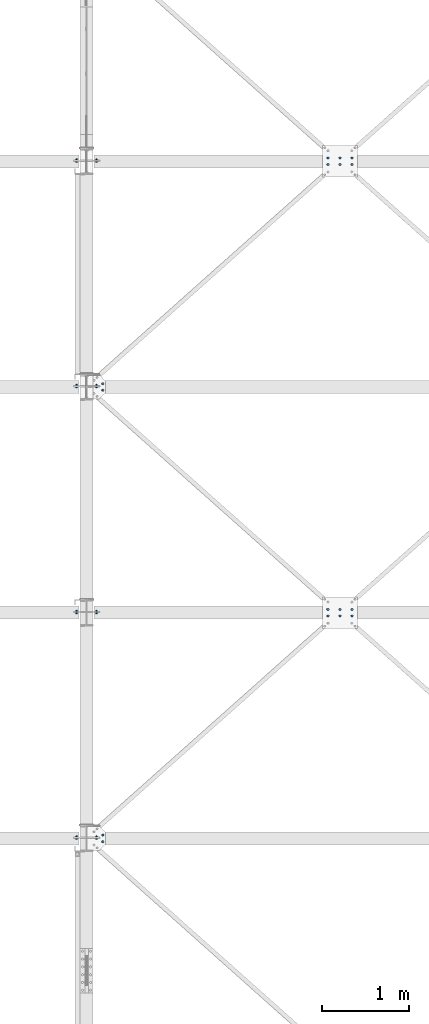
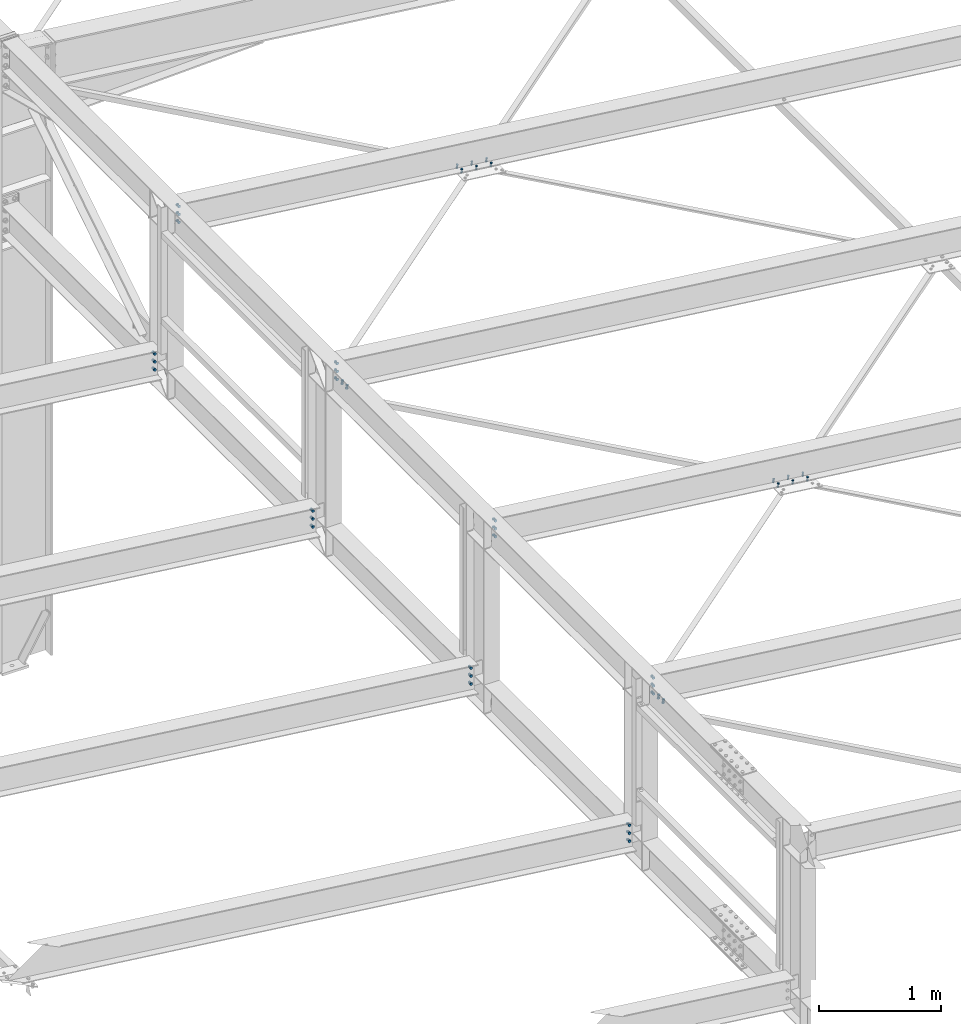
# One storey, part 245 of 3134: 12 mechanical fasteners, 8 elements without a shape of their own.
"""IFC2X3 building model written with IfcOpenShell, lengths in millimetres."""

from ifc_helpers import new_model, si_unit, frame, origin_with_axes, place, context, subcontext, project, spatial, faceted_brep, source, transform, mapped, material, type_object, element, aggregate, save


model = new_model("IFC2X3")

# Units and contexts
model_context = context("Model", 3, precision=1e-05, world=origin_with_axes())
body_context = subcontext(model_context, "Body", "Model", "MODEL_VIEW")
ifc_project = project(units=[si_unit("LENGTHUNIT", "METRE", prefix="MILLI"), si_unit("AREAUNIT", "SQUARE_METRE"), si_unit("VOLUMEUNIT", "CUBIC_METRE"), si_unit("MASSUNIT", "GRAM", prefix="KILO"), si_unit("TIMEUNIT", "SECOND"), si_unit("PLANEANGLEUNIT", "RADIAN"), si_unit("SOLIDANGLEUNIT", "STERADIAN"), si_unit("THERMODYNAMICTEMPERATUREUNIT", "DEGREE_CELSIUS"), si_unit("LUMINOUSINTENSITYUNIT", "LUMEN")], contexts=[model_context])

# Site, building, storey
site_placement = place(None, origin_with_axes())
site = spatial("IfcSite", under=ifc_project, at=site_placement, CompositionType="ELEMENT")
building_placement = place(site_placement, origin_with_axes())
building = spatial("IfcBuilding", under=site, at=building_placement, Name="Undefined", CompositionType="ELEMENT")
storey_placement = place(building_placement, origin_with_axes())
storey = spatial("IfcBuildingStorey", under=building, at=storey_placement, Name="Undefined", CompositionType="ELEMENT", Elevation=0.0)

# Assembly, mechanical fastener
assembly_1_placement = place(storey_placement, origin_with_axes())
assembly_1 = element("IfcElementAssembly", 1, at=assembly_1_placement, inside=storey, Name="300", AssemblyPlace="NOTDEFINED", PredefinedType="RIGID_FRAME")
ifc_material = material(Name="8.8")
mechanical_fastener_type = type_object("IfcMechanicalFastenerType", Name="Bolt assembly")
shared_shape_1 = source(origin_with_axes(), body_context, "Body", "Brep", [
    faceted_brep([(13.856406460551, -19.199990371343, 0.0), (6.92820323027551, -19.199990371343, 12.0), (-6.92820323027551, -19.199990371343, 12.0), (-13.856406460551, -19.199990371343, 1.69692038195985e-15), (-6.92820323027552, -19.199990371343, -12.0), (6.9282032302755, -19.199990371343, -12.0), (6.9282032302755, -9.19999037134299, -12.0), (-6.92820323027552, -9.19999037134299, -12.0), (-13.856406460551, -9.19999037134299, 1.69692038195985e-15), (-6.92820323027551, -9.19999037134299, 12.0), (6.92820323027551, -9.19999037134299, 12.0), (13.856406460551, -9.19999037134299, 0.0), (8.0, -9.19999037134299, 0.0), (6.92820323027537, -9.19999037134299, 4.00000000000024), (3.99999999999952, -9.19999037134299, 6.92820323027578), (-8.29068785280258e-13, -9.19999037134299, 8.0), (-4.00000000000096, -9.19999037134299, 6.92820323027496), (-6.9282032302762, -9.19999037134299, 3.99999999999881), (-8.0, -9.19999037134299, -1.65813757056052e-12), (-6.92820323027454, -9.19999037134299, -4.00000000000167), (-3.99999999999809, -9.19999037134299, -6.92820323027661), (2.47832457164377e-12, -9.19999037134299, -8.0), (4.00000000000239, -9.19999037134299, -6.92820323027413), (6.92820323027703, -9.19999037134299, -3.99999999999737), (6.92820323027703, 25.800009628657, -3.99999999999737), (4.00000000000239, 25.800009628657, -6.92820323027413), (2.47832457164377e-12, 25.800009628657, -8.0), (-3.99999999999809, 25.800009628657, -6.92820323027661), (-6.92820323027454, 25.800009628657, -4.00000000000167), (-8.0, 25.800009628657, -1.65813757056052e-12), (-6.9282032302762, 25.800009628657, 3.99999999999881), (-4.00000000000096, 25.800009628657, 6.92820323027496), (-8.29068785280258e-13, 25.800009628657, 8.0), (3.99999999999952, 25.800009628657, 6.92820323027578), (6.92820323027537, 25.800009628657, 4.00000000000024), (8.0, 25.800009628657, 0.0), (13.856406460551, 8.00000637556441, 0.0), (6.92820323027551, 8.00000637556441, 12.0), (-6.92820323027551, 8.00000637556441, 12.0), (-13.856406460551, 8.00000637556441, 1.69692038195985e-15), (-6.92820323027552, 8.00000637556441, -12.0), (6.9282032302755, 8.00000637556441, -12.0), (6.9282032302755, 21.0000063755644, -12.0), (-6.92820323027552, 21.0000063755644, -12.0), (-13.856406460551, 21.0000063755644, 1.69692038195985e-15), (-6.92820323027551, 21.0000063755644, 12.0), (6.92820323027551, 21.0000063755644, 12.0), (13.856406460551, 21.0000063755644, 0.0)], [[[0, 1, 2, 3, 4, 5]], [[6, 7, 8, 9, 10, 11]], [[0, 11, 10, 1]], [[1, 10, 9, 2]], [[2, 9, 8, 3]], [[3, 8, 7, 4]], [[4, 7, 6, 5]], [[5, 6, 11, 0]], [[12, 13, 14, 15, 16, 17, 18, 19, 20, 21, 22, 23]], [[24, 25, 26, 27, 28, 29, 30, 31, 32, 33, 34, 35]], [[12, 35, 34, 13]], [[13, 34, 33, 14]], [[14, 33, 32, 15]], [[15, 32, 31, 16]], [[16, 31, 30, 17]], [[17, 30, 29, 18]], [[18, 29, 28, 19]], [[19, 28, 27, 20]], [[20, 27, 26, 21]], [[21, 26, 25, 22]], [[22, 25, 24, 23]], [[23, 24, 35, 12]], [[36, 37, 38, 39, 40, 41]], [[42, 43, 44, 45, 46, 47]], [[36, 47, 46, 37]], [[37, 46, 45, 38]], [[38, 45, 44, 39]], [[39, 44, 43, 40]], [[40, 43, 42, 41]], [[41, 42, 47, 36]]]),
    faceted_brep([(9.0, -0.1, 0.0), (7.79422863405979, -0.1, 4.50000000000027), (4.49999999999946, -0.1, 7.79422863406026), (-9.3270238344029e-13, -0.1, 9.0), (-4.50000000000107, -0.1, 7.79422863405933), (-7.79422863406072, -0.1, 4.49999999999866), (-9.0, -0.1, -1.86540476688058e-12), (-7.79422863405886, -0.1, -4.50000000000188), (-4.49999999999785, -0.1, -7.79422863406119), (2.78811514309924e-12, -0.1, -9.0), (4.50000000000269, -0.1, -7.7942286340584), (7.79422863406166, -0.1, -4.49999999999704), (7.79422863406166, 8.00000000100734, -4.49999999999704), (4.50000000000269, 8.00000000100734, -7.7942286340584), (2.78811514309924e-12, 8.00000000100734, -9.0), (-4.49999999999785, 8.00000000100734, -7.79422863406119), (-7.79422863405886, 8.00000000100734, -4.50000000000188), (-9.0, 8.00000000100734, -1.86540476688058e-12), (-7.79422863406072, 8.00000000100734, 4.49999999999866), (-4.50000000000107, 8.00000000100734, 7.79422863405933), (-9.3270238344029e-13, 8.00000000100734, 9.0), (4.49999999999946, 8.00000000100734, 7.79422863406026), (7.79422863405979, 8.00000000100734, 4.50000000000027), (9.0, 8.00000000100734, 0.0), (9.0, -9.09999037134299, 0.0), (7.79422863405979, -9.09999037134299, 4.50000000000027), (4.49999999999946, -9.09999037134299, 7.79422863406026), (-9.3270238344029e-13, -9.09999037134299, 9.0), (-4.50000000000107, -9.09999037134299, 7.79422863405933), (-7.79422863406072, -9.09999037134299, 4.49999999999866), (-9.0, -9.09999037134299, -1.86540476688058e-12), (-7.79422863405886, -9.09999037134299, -4.50000000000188), (-4.49999999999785, -9.09999037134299, -7.79422863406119), (2.78811514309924e-12, -9.09999037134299, -9.0), (4.50000000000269, -9.09999037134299, -7.7942286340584), (7.79422863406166, -9.09999037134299, -4.49999999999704), (7.79422863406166, 0.100000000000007, -4.49999999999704), (4.50000000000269, 0.100000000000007, -7.7942286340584), (2.78811514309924e-12, 0.100000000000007, -9.0), (-4.49999999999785, 0.100000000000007, -7.79422863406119), (-7.79422863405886, 0.100000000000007, -4.50000000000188), (-9.0, 0.100000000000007, -1.86540476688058e-12), (-7.79422863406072, 0.100000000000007, 4.49999999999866), (-4.50000000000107, 0.100000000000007, 7.79422863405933), (-9.3270238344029e-13, 0.100000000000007, 9.0), (4.49999999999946, 0.100000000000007, 7.79422863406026), (7.79422863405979, 0.100000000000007, 4.50000000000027), (9.0, 0.100000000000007, 0.0)], [[[0, 1, 2, 3, 4, 5, 6, 7, 8, 9, 10, 11]], [[12, 13, 14, 15, 16, 17, 18, 19, 20, 21, 22, 23]], [[0, 23, 22, 1]], [[1, 22, 21, 2]], [[2, 21, 20, 3]], [[3, 20, 19, 4]], [[4, 19, 18, 5]], [[5, 18, 17, 6]], [[6, 17, 16, 7]], [[7, 16, 15, 8]], [[8, 15, 14, 9]], [[9, 14, 13, 10]], [[10, 13, 12, 11]], [[11, 12, 23, 0]], [[24, 25, 26, 27, 28, 29, 30, 31, 32, 33, 34, 35]], [[36, 37, 38, 39, 40, 41, 42, 43, 44, 45, 46, 47]], [[24, 47, 46, 25]], [[25, 46, 45, 26]], [[26, 45, 44, 27]], [[27, 44, 43, 28]], [[28, 43, 42, 29]], [[29, 42, 41, 30]], [[30, 41, 40, 31]], [[31, 40, 39, 32]], [[32, 39, 38, 33]], [[33, 38, 37, 34]], [[34, 37, 36, 35]], [[35, 36, 47, 24]]]),
])
mechanical_fastener_1_placement = place(assembly_1_placement, frame((32714.2248161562, 35087.9995130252, 5496.68063428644), z_axis=(0.992623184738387, 1.63108538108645e-05, -0.12124031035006), x_axis=(1.62000016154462e-05, -0.999999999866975, -1.90000018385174e-06)))
mechanical_fastener_1 = element("IfcMechanicalFastener", 2, at=mechanical_fastener_1_placement, type_object=mechanical_fastener_type, material=ifc_material, Name="Bolt assembly", NominalDiameter=16.0, NominalLength=35.0, context=body_context, shape_type="MappedRepresentation", body=[
    mapped(shared_shape_1, transform((0.0, 0.0, 0.0))),
    mapped(shared_shape_1, transform((76.0, 0.0, 0.0))),
])

# Assembly, mechanical fasteners
assembly_2_placement = place(storey_placement, origin_with_axes())
assembly_2 = element("IfcElementAssembly", 3, at=assembly_2_placement, inside=storey, Name="300", AssemblyPlace="NOTDEFINED", PredefinedType="RIGID_FRAME")
mechanical_fastener_2_placement = place(assembly_2_placement, frame((32714.2248161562, 29887.9995130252, 5496.68063428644), z_axis=(0.992623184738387, 1.63108538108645e-05, -0.12124031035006), x_axis=(1.62000016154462e-05, -0.999999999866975, -1.90000018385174e-06)))
mechanical_fastener_2 = element("IfcMechanicalFastener", 4, at=mechanical_fastener_2_placement, type_object=mechanical_fastener_type, material=ifc_material, Name="Bolt assembly", NominalDiameter=16.0, NominalLength=35.0, context=body_context, shape_type="MappedRepresentation", body=[
    mapped(shared_shape_1, transform((0.0, 0.0, 0.0))),
    mapped(shared_shape_1, transform((76.0, 0.0, 0.0))),
])
shared_shape_2 = source(origin_with_axes(), body_context, "Body", "Brep", [
    faceted_brep([(13.856406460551, -13.0499999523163, 0.0), (6.92820323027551, -13.0499999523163, 12.0), (-6.92820323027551, -13.0499999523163, 12.0), (-13.856406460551, -13.0499999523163, 1.69692038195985e-15), (-6.92820323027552, -13.0499999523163, -12.0), (6.9282032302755, -13.0499999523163, -12.0), (6.9282032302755, -3.04999995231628, -12.0), (-6.92820323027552, -3.04999995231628, -12.0), (-13.856406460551, -3.04999995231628, 1.69692038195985e-15), (-6.92820323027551, -3.04999995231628, 12.0), (6.92820323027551, -3.04999995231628, 12.0), (13.856406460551, -3.04999995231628, 0.0), (8.0, -3.04999995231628, 0.0), (6.92820323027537, -3.04999995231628, 4.00000000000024), (3.99999999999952, -3.04999995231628, 6.92820323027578), (-8.29068785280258e-13, -3.04999995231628, 8.0), (-4.00000000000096, -3.04999995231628, 6.92820323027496), (-6.9282032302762, -3.04999995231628, 3.99999999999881), (-8.0, -3.04999995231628, -1.65813757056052e-12), (-6.92820323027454, -3.04999995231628, -4.00000000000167), (-3.99999999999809, -3.04999995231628, -6.92820323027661), (2.47832457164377e-12, -3.04999995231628, -8.0), (4.00000000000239, -3.04999995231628, -6.92820323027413), (6.92820323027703, -3.04999995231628, -3.99999999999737), (6.92820323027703, 31.9500000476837, -3.99999999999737), (4.00000000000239, 31.9500000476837, -6.92820323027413), (2.47832457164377e-12, 31.9500000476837, -8.0), (-3.99999999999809, 31.9500000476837, -6.92820323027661), (-6.92820323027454, 31.9500000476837, -4.00000000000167), (-8.0, 31.9500000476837, -1.65813757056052e-12), (-6.9282032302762, 31.9500000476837, 3.99999999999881), (-4.00000000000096, 31.9500000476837, 6.92820323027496), (-8.29068785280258e-13, 31.9500000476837, 8.0), (3.99999999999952, 31.9500000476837, 6.92820323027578), (6.92820323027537, 31.9500000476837, 4.00000000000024), (8.0, 31.9500000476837, 0.0), (13.856406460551, 13.0500000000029, 0.0), (6.92820323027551, 13.0500000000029, 12.0), (-6.92820323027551, 13.0500000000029, 12.0), (-13.856406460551, 13.0500000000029, 1.69692038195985e-15), (-6.92820323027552, 13.0500000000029, -12.0), (6.9282032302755, 13.0500000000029, -12.0), (6.9282032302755, 26.0500000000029, -12.0), (-6.92820323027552, 26.0500000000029, -12.0), (-13.856406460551, 26.0500000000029, 1.69692038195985e-15), (-6.92820323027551, 26.0500000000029, 12.0), (6.92820323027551, 26.0500000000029, 12.0), (13.856406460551, 26.0500000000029, 0.0)], [[[0, 1, 2, 3, 4, 5]], [[6, 7, 8, 9, 10, 11]], [[0, 11, 10, 1]], [[1, 10, 9, 2]], [[2, 9, 8, 3]], [[3, 8, 7, 4]], [[4, 7, 6, 5]], [[5, 6, 11, 0]], [[12, 13, 14, 15, 16, 17, 18, 19, 20, 21, 22, 23]], [[24, 25, 26, 27, 28, 29, 30, 31, 32, 33, 34, 35]], [[12, 35, 34, 13]], [[13, 34, 33, 14]], [[14, 33, 32, 15]], [[15, 32, 31, 16]], [[16, 31, 30, 17]], [[17, 30, 29, 18]], [[18, 29, 28, 19]], [[19, 28, 27, 20]], [[20, 27, 26, 21]], [[21, 26, 25, 22]], [[22, 25, 24, 23]], [[23, 24, 35, 12]], [[36, 37, 38, 39, 40, 41]], [[42, 43, 44, 45, 46, 47]], [[36, 47, 46, 37]], [[37, 46, 45, 38]], [[38, 45, 44, 39]], [[39, 44, 43, 40]], [[40, 43, 42, 41]], [[41, 42, 47, 36]]]),
    faceted_brep([(9.0, 2.95000000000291, 0.0), (7.79422863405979, 2.95000000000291, 4.50000000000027), (4.49999999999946, 2.95000000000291, 7.79422863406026), (-9.3270238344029e-13, 2.95000000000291, 9.0), (-4.50000000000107, 2.95000000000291, 7.79422863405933), (-7.79422863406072, 2.95000000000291, 4.49999999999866), (-9.0, 2.95000000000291, -1.86540476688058e-12), (-7.79422863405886, 2.95000000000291, -4.50000000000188), (-4.49999999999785, 2.95000000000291, -7.79422863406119), (2.78811514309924e-12, 2.95000000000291, -9.0), (4.50000000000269, 2.95000000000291, -7.7942286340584), (7.79422863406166, 2.95000000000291, -4.49999999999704), (7.79422863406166, 13.0500000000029, -4.49999999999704), (4.50000000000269, 13.0500000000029, -7.7942286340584), (2.78811514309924e-12, 13.0500000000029, -9.0), (-4.49999999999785, 13.0500000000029, -7.79422863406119), (-7.79422863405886, 13.0500000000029, -4.50000000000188), (-9.0, 13.0500000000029, -1.86540476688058e-12), (-7.79422863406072, 13.0500000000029, 4.49999999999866), (-4.50000000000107, 13.0500000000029, 7.79422863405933), (-9.3270238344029e-13, 13.0500000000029, 9.0), (4.49999999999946, 13.0500000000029, 7.79422863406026), (7.79422863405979, 13.0500000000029, 4.50000000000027), (9.0, 13.0500000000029, 0.0), (9.0, -2.94999995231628, 0.0), (7.79422863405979, -2.94999995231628, 4.50000000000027), (4.49999999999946, -2.94999995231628, 7.79422863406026), (-9.3270238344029e-13, -2.94999995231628, 9.0), (-4.50000000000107, -2.94999995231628, 7.79422863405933), (-7.79422863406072, -2.94999995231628, 4.49999999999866), (-9.0, -2.94999995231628, -1.86540476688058e-12), (-7.79422863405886, -2.94999995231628, -4.50000000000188), (-4.49999999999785, -2.94999995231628, -7.79422863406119), (2.78811514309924e-12, -2.94999995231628, -9.0), (4.50000000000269, -2.94999995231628, -7.7942286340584), (7.79422863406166, -2.94999995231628, -4.49999999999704), (7.79422863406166, 3.14999995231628, -4.49999999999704), (4.50000000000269, 3.14999995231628, -7.7942286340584), (2.78811514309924e-12, 3.14999995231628, -9.0), (-4.49999999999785, 3.14999995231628, -7.79422863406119), (-7.79422863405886, 3.14999995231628, -4.50000000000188), (-9.0, 3.14999995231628, -1.86540476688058e-12), (-7.79422863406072, 3.14999995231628, 4.49999999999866), (-4.50000000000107, 3.14999995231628, 7.79422863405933), (-9.3270238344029e-13, 3.14999995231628, 9.0), (4.49999999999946, 3.14999995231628, 7.79422863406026), (7.79422863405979, 3.14999995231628, 4.50000000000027), (9.0, 3.14999995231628, 0.0)], [[[0, 1, 2, 3, 4, 5, 6, 7, 8, 9, 10, 11]], [[12, 13, 14, 15, 16, 17, 18, 19, 20, 21, 22, 23]], [[0, 23, 22, 1]], [[1, 22, 21, 2]], [[2, 21, 20, 3]], [[3, 20, 19, 4]], [[4, 19, 18, 5]], [[5, 18, 17, 6]], [[6, 17, 16, 7]], [[7, 16, 15, 8]], [[8, 15, 14, 9]], [[9, 14, 13, 10]], [[10, 13, 12, 11]], [[11, 12, 23, 0]], [[24, 25, 26, 27, 28, 29, 30, 31, 32, 33, 34, 35]], [[36, 37, 38, 39, 40, 41, 42, 43, 44, 45, 46, 47]], [[24, 47, 46, 25]], [[25, 46, 45, 26]], [[26, 45, 44, 27]], [[27, 44, 43, 28]], [[28, 43, 42, 29]], [[29, 42, 41, 30]], [[30, 41, 40, 31]], [[31, 40, 39, 32]], [[32, 39, 38, 33]], [[33, 38, 37, 34]], [[34, 37, 36, 35]], [[35, 36, 47, 24]]]),
])
mechanical_fastener_3_placement = place(assembly_2_placement, frame((32640.0, 29850.0, 5735.35014950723), z_axis=(1.0, 0.0, 0.0), x_axis=(0.0, 0.0, -1.0)))
mechanical_fastener_3 = element("IfcMechanicalFastener", 5, at=mechanical_fastener_3_placement, type_object=mechanical_fastener_type, material=ifc_material, Name="Bolt assembly", NominalDiameter=16.0, NominalLength=35.0, context=body_context, shape_type="MappedRepresentation", body=[
    mapped(shared_shape_2, transform((0.0, 0.0, 0.0))),
    mapped(shared_shape_2, transform((80.0, 0.0, 0.0))),
    mapped(shared_shape_2, transform((160.0, 0.0, 0.0))),
])
aggregate(assembly_2, [mechanical_fastener_2, mechanical_fastener_3])

# Assembly, mechanical fastener
assembly_3_placement = place(storey_placement, origin_with_axes())
assembly_3 = element("IfcElementAssembly", 6, at=assembly_3_placement, inside=storey, Name="300", AssemblyPlace="NOTDEFINED", PredefinedType="RIGID_FRAME")
mechanical_fastener_4_placement = place(assembly_3_placement, frame((32640.0, 32450.0, 5735.35014950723), z_axis=(1.0, 0.0, 0.0), x_axis=(0.0, 0.0, -1.0)))
mechanical_fastener_4 = element("IfcMechanicalFastener", 7, at=mechanical_fastener_4_placement, type_object=mechanical_fastener_type, material=ifc_material, Name="Bolt assembly", NominalDiameter=16.0, NominalLength=35.0, context=body_context, shape_type="MappedRepresentation", body=[
    mapped(shared_shape_2, transform((0.0, 0.0, 0.0))),
    mapped(shared_shape_2, transform((80.0, 0.0, 0.0))),
    mapped(shared_shape_2, transform((160.0, 0.0, 0.0))),
])

assembly_4_placement = place(storey_placement, origin_with_axes())
assembly_4 = element("IfcElementAssembly", 8, at=assembly_4_placement, inside=storey, Name="300", AssemblyPlace="NOTDEFINED", PredefinedType="RIGID_FRAME")
mechanical_fastener_5_placement = place(assembly_4_placement, frame((32640.0, 37650.0, 5735.35014950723), z_axis=(1.0, 0.0, 0.0), x_axis=(0.0, 0.0, -1.0)))
mechanical_fastener_5 = element("IfcMechanicalFastener", 9, at=mechanical_fastener_5_placement, type_object=mechanical_fastener_type, material=ifc_material, Name="Bolt assembly", NominalDiameter=16.0, NominalLength=35.0, context=body_context, shape_type="MappedRepresentation", body=[
    mapped(shared_shape_2, transform((0.0, 0.0, 0.0))),
    mapped(shared_shape_2, transform((80.0, 0.0, 0.0))),
    mapped(shared_shape_2, transform((160.0, 0.0, 0.0))),
])

# Mechanical fastener
mechanical_fastener_6_placement = place(assembly_1_placement, frame((32640.0, 35050.0, 5735.35014950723), z_axis=(1.0, 0.0, 0.0), x_axis=(0.0, 0.0, -1.0)))
mechanical_fastener_6 = element("IfcMechanicalFastener", 10, at=mechanical_fastener_6_placement, type_object=mechanical_fastener_type, material=ifc_material, Name="Bolt assembly", NominalDiameter=16.0, NominalLength=35.0, context=body_context, shape_type="MappedRepresentation", body=[
    mapped(shared_shape_2, transform((0.0, 0.0, 0.0))),
    mapped(shared_shape_2, transform((80.0, 0.0, 0.0))),
    mapped(shared_shape_2, transform((160.0, 0.0, 0.0))),
])

aggregate(assembly_1, [mechanical_fastener_1, mechanical_fastener_6])

# Assembly, mechanical fastener
assembly_5_placement = place(storey_placement, origin_with_axes())
assembly_5 = element("IfcElementAssembly", 11, at=assembly_5_placement, inside=storey, Name="300", AssemblyPlace="NOTDEFINED", PredefinedType="RIGID_FRAME")
mechanical_fastener_7_placement = place(assembly_5_placement, frame((32410.0, 29850.0, 4337.44269270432), z_axis=(1.0, 0.0, 0.0), x_axis=(0.0, 0.0, -1.0)))
mechanical_fastener_7 = element("IfcMechanicalFastener", 12, at=mechanical_fastener_7_placement, type_object=mechanical_fastener_type, material=ifc_material, Name="Bolt assembly", NominalDiameter=16.0, NominalLength=35.0, context=body_context, shape_type="MappedRepresentation", body=[
    mapped(shared_shape_2, transform((0.0, 0.0, 0.0))),
    mapped(shared_shape_2, transform((80.0, 0.0, 0.0))),
    mapped(shared_shape_2, transform((160.0, 0.0, 0.0))),
])
aggregate(assembly_5, [mechanical_fastener_7])

assembly_6_placement = place(storey_placement, origin_with_axes())
assembly_6 = element("IfcElementAssembly", 13, at=assembly_6_placement, inside=storey, Name="300", AssemblyPlace="NOTDEFINED", PredefinedType="RIGID_FRAME")
mechanical_fastener_8_placement = place(assembly_6_placement, frame((32410.0, 32450.0, 4337.44269270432), z_axis=(1.0, 0.0, 0.0), x_axis=(0.0, 0.0, -1.0)))
mechanical_fastener_8 = element("IfcMechanicalFastener", 14, at=mechanical_fastener_8_placement, type_object=mechanical_fastener_type, material=ifc_material, Name="Bolt assembly", NominalDiameter=16.0, NominalLength=35.0, context=body_context, shape_type="MappedRepresentation", body=[
    mapped(shared_shape_2, transform((0.0, 0.0, 0.0))),
    mapped(shared_shape_2, transform((80.0, 0.0, 0.0))),
    mapped(shared_shape_2, transform((160.0, 0.0, 0.0))),
])
aggregate(assembly_6, [mechanical_fastener_8])

assembly_7_placement = place(storey_placement, origin_with_axes())
assembly_7 = element("IfcElementAssembly", 15, at=assembly_7_placement, inside=storey, Name="300", AssemblyPlace="NOTDEFINED", PredefinedType="RIGID_FRAME")
mechanical_fastener_9_placement = place(assembly_7_placement, frame((32410.0, 35050.0, 4337.44269270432), z_axis=(1.0, 0.0, 0.0), x_axis=(0.0, 0.0, -1.0)))
mechanical_fastener_9 = element("IfcMechanicalFastener", 16, at=mechanical_fastener_9_placement, type_object=mechanical_fastener_type, material=ifc_material, Name="Bolt assembly", NominalDiameter=16.0, NominalLength=35.0, context=body_context, shape_type="MappedRepresentation", body=[
    mapped(shared_shape_2, transform((0.0, 0.0, 0.0))),
    mapped(shared_shape_2, transform((80.0, 0.0, 0.0))),
    mapped(shared_shape_2, transform((160.0, 0.0, 0.0))),
])
aggregate(assembly_7, [mechanical_fastener_9])

assembly_8_placement = place(storey_placement, origin_with_axes())
assembly_8 = element("IfcElementAssembly", 17, at=assembly_8_placement, inside=storey, Name="300", AssemblyPlace="NOTDEFINED", PredefinedType="RIGID_FRAME")
mechanical_fastener_10_placement = place(assembly_8_placement, frame((32410.0, 37650.0, 4337.44269270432), z_axis=(1.0, 0.0, 0.0), x_axis=(0.0, 0.0, -1.0)))
mechanical_fastener_10 = element("IfcMechanicalFastener", 18, at=mechanical_fastener_10_placement, type_object=mechanical_fastener_type, material=ifc_material, Name="Bolt assembly", NominalDiameter=16.0, NominalLength=35.0, context=body_context, shape_type="MappedRepresentation", body=[
    mapped(shared_shape_2, transform((0.0, 0.0, 0.0))),
    mapped(shared_shape_2, transform((80.0, 0.0, 0.0))),
    mapped(shared_shape_2, transform((160.0, 0.0, 0.0))),
])
aggregate(assembly_8, [mechanical_fastener_10])

# Mechanical fastener
shared_shape_3 = source(origin_with_axes(), body_context, "Body", "Brep", [
    faceted_brep([(10.9696551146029, -17.1999998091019, 0.0), (5.48482755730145, -17.1999998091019, 9.5), (-5.48482755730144, -17.1999998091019, 9.5), (-10.9696551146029, -17.1999998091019, 1.34339530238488e-15), (-5.48482755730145, -17.1999998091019, -9.5), (5.48482755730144, -17.1999998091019, -9.50000000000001), (5.48482755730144, -9.19999978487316, -9.50000000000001), (-5.48482755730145, -9.19999978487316, -9.5), (-10.9696551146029, -9.19999978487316, 1.34339530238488e-15), (-5.48482755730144, -9.19999978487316, 9.5), (5.48482755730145, -9.19999978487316, 9.5), (10.9696551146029, -9.19999978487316, 0.0), (6.0, -9.19999978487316, 0.0), (5.19615242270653, -9.19999978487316, 3.00000000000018), (2.99999999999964, -9.19999978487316, 5.19615242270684), (-6.21801588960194e-13, -9.19999978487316, 6.0), (-3.00000000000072, -9.19999978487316, 5.19615242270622), (-5.19615242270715, -9.19999978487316, 2.9999999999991), (-6.0, -9.19999978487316, -1.24360317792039e-12), (-5.19615242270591, -9.19999978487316, -3.00000000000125), (-2.99999999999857, -9.19999978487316, -5.19615242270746), (1.85874342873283e-12, -9.19999978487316, -6.0), (3.00000000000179, -9.19999978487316, -5.1961524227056), (5.19615242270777, -9.19999978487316, -2.99999999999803), (5.19615242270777, 25.8000002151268, -2.99999999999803), (3.00000000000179, 25.8000002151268, -5.1961524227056), (1.85874342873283e-12, 25.8000002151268, -6.0), (-2.99999999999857, 25.8000002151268, -5.19615242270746), (-5.19615242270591, 25.8000002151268, -3.00000000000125), (-6.0, 25.8000002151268, -1.24360317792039e-12), (-5.19615242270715, 25.8000002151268, 2.9999999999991), (-3.00000000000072, 25.8000002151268, 5.19615242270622), (-6.21801588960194e-13, 25.8000002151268, 6.0), (2.99999999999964, 25.8000002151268, 5.19615242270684), (5.19615242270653, 25.8000002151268, 3.00000000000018), (6.0, 25.8000002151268, 0.0), (10.9696551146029, 8.0, 0.0), (5.48482755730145, 8.0, 9.5), (-5.48482755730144, 8.0, 9.5), (-10.9696551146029, 8.0, 1.34339530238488e-15), (-5.48482755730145, 8.0, -9.5), (5.48482755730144, 8.0, -9.50000000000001), (5.48482755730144, 18.0, -9.50000000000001), (-5.48482755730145, 18.0, -9.5), (-10.9696551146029, 18.0, 1.34339530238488e-15), (-5.48482755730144, 18.0, 9.5), (5.48482755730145, 18.0, 9.5), (10.9696551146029, 18.0, 0.0)], [[[0, 1, 2, 3, 4, 5]], [[6, 7, 8, 9, 10, 11]], [[0, 11, 10, 1]], [[1, 10, 9, 2]], [[2, 9, 8, 3]], [[3, 8, 7, 4]], [[4, 7, 6, 5]], [[5, 6, 11, 0]], [[12, 13, 14, 15, 16, 17, 18, 19, 20, 21, 22, 23]], [[24, 25, 26, 27, 28, 29, 30, 31, 32, 33, 34, 35]], [[12, 35, 34, 13]], [[13, 34, 33, 14]], [[14, 33, 32, 15]], [[15, 32, 31, 16]], [[16, 31, 30, 17]], [[17, 30, 29, 18]], [[18, 29, 28, 19]], [[19, 28, 27, 20]], [[20, 27, 26, 21]], [[21, 26, 25, 22]], [[22, 25, 24, 23]], [[23, 24, 35, 12]], [[36, 37, 38, 39, 40, 41]], [[42, 43, 44, 45, 46, 47]], [[36, 47, 46, 37]], [[37, 46, 45, 38]], [[38, 45, 44, 39]], [[39, 44, 43, 40]], [[40, 43, 42, 41]], [[41, 42, 47, 36]]]),
    faceted_brep([(7.0, -0.1, 0.0), (6.06217782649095, -0.1, 3.50000000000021), (3.49999999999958, -0.1, 6.06217782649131), (-7.25435187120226e-13, -0.1, 7.0), (-3.50000000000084, -0.1, 6.06217782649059), (-6.06217782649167, -0.1, 3.49999999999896), (-7.0, -0.1, -1.45087037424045e-12), (-6.06217782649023, -0.1, -3.50000000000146), (-3.49999999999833, -0.1, -6.06217782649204), (2.1685340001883e-12, -0.1, -7.0), (3.50000000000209, -0.1, -6.06217782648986), (6.0621778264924, -0.1, -3.4999999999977), (6.0621778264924, 8.0000000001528, -3.4999999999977), (3.50000000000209, 8.0000000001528, -6.06217782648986), (2.1685340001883e-12, 8.0000000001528, -7.0), (-3.49999999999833, 8.0000000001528, -6.06217782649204), (-6.06217782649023, 8.0000000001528, -3.50000000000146), (-7.0, 8.0000000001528, -1.45087037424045e-12), (-6.06217782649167, 8.0000000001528, 3.49999999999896), (-3.50000000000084, 8.0000000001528, 6.06217782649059), (-7.25435187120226e-13, 8.0000000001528, 7.0), (3.49999999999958, 8.0000000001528, 6.06217782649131), (6.06217782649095, 8.0000000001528, 3.50000000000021), (7.0, 8.0000000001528, 0.0), (7.0, -9.09999980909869, 0.0), (6.06217782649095, -9.09999980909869, 3.50000000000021), (3.49999999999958, -9.09999980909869, 6.06217782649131), (-7.25435187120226e-13, -9.09999980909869, 7.0), (-3.50000000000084, -9.09999980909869, 6.06217782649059), (-6.06217782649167, -9.09999980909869, 3.49999999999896), (-7.0, -9.09999980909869, -1.45087037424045e-12), (-6.06217782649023, -9.09999980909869, -3.50000000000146), (-3.49999999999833, -9.09999980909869, -6.06217782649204), (2.1685340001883e-12, -9.09999980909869, -7.0), (3.50000000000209, -9.09999980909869, -6.06217782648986), (6.0621778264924, -9.09999980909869, -3.4999999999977), (6.0621778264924, 0.0999999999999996, -3.4999999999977), (3.50000000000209, 0.0999999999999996, -6.06217782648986), (2.1685340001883e-12, 0.0999999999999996, -7.0), (-3.49999999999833, 0.0999999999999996, -6.06217782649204), (-6.06217782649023, 0.0999999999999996, -3.50000000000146), (-7.0, 0.0999999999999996, -1.45087037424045e-12), (-6.06217782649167, 0.0999999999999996, 3.49999999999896), (-3.50000000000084, 0.0999999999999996, 6.06217782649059), (-7.25435187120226e-13, 0.0999999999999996, 7.0), (3.49999999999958, 0.0999999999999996, 6.06217782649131), (6.06217782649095, 0.0999999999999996, 3.50000000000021), (7.0, 0.0999999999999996, 0.0)], [[[0, 1, 2, 3, 4, 5, 6, 7, 8, 9, 10, 11]], [[12, 13, 14, 15, 16, 17, 18, 19, 20, 21, 22, 23]], [[0, 23, 22, 1]], [[1, 22, 21, 2]], [[2, 21, 20, 3]], [[3, 20, 19, 4]], [[4, 19, 18, 5]], [[5, 18, 17, 6]], [[6, 17, 16, 7]], [[7, 16, 15, 8]], [[8, 15, 14, 9]], [[9, 14, 13, 10]], [[10, 13, 12, 11]], [[11, 12, 23, 0]], [[24, 25, 26, 27, 28, 29, 30, 31, 32, 33, 34, 35]], [[36, 37, 38, 39, 40, 41, 42, 43, 44, 45, 46, 47]], [[24, 47, 46, 25]], [[25, 46, 45, 26]], [[26, 45, 44, 27]], [[27, 44, 43, 28]], [[28, 43, 42, 29]], [[29, 42, 41, 30]], [[30, 41, 40, 31]], [[31, 40, 39, 32]], [[32, 39, 38, 33]], [[33, 38, 37, 34]], [[34, 37, 36, 35]], [[35, 36, 47, 24]]]),
])
mechanical_fastener_11_placement = place(assembly_4_placement, frame((35583.2022067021, 37650.0, 5146.25993625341), z_axis=(0.0, -1.0, 0.0), x_axis=(-0.992623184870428, 0.0, 0.121240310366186)))
mechanical_fastener_11 = element("IfcMechanicalFastener", 19, at=mechanical_fastener_11_placement, type_object=mechanical_fastener_type, material=ifc_material, Name="Bolt assembly", NominalDiameter=12.0, NominalLength=35.0, context=body_context, shape_type="MappedRepresentation", body=[
    mapped(shared_shape_3, transform((0.0, 0.0, -38.0))),
    mapped(shared_shape_3, transform((140.000000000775, 5.85714587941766e-10, -38.0))),
    mapped(shared_shape_3, transform((279.999999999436, -4.74756234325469e-10, -38.0))),
    mapped(shared_shape_3, transform((0.0, 0.0, 38.0))),
    mapped(shared_shape_3, transform((140.000000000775, 5.85714587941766e-10, 38.0))),
    mapped(shared_shape_3, transform((279.999999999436, -4.74756234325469e-10, 38.0))),
])

aggregate(assembly_4, [mechanical_fastener_11, mechanical_fastener_5])

mechanical_fastener_12_placement = place(assembly_3_placement, frame((35583.2022067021, 32450.0, 5146.25993625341), z_axis=(0.0, -1.0, 0.0), x_axis=(-0.992623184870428, 0.0, 0.121240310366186)))
mechanical_fastener_12 = element("IfcMechanicalFastener", 20, at=mechanical_fastener_12_placement, type_object=mechanical_fastener_type, material=ifc_material, Name="Bolt assembly", NominalDiameter=12.0, NominalLength=35.0, context=body_context, shape_type="MappedRepresentation", body=[
    mapped(shared_shape_3, transform((0.0, 0.0, -38.0))),
    mapped(shared_shape_3, transform((140.000000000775, 5.85714587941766e-10, -38.0))),
    mapped(shared_shape_3, transform((279.999999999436, -4.74756234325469e-10, -38.0))),
    mapped(shared_shape_3, transform((0.0, 0.0, 38.0))),
    mapped(shared_shape_3, transform((140.000000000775, 5.85714587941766e-10, 38.0))),
    mapped(shared_shape_3, transform((279.999999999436, -4.74756234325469e-10, 38.0))),
])

aggregate(assembly_3, [mechanical_fastener_12, mechanical_fastener_4])

save(model, "model.ifc")
